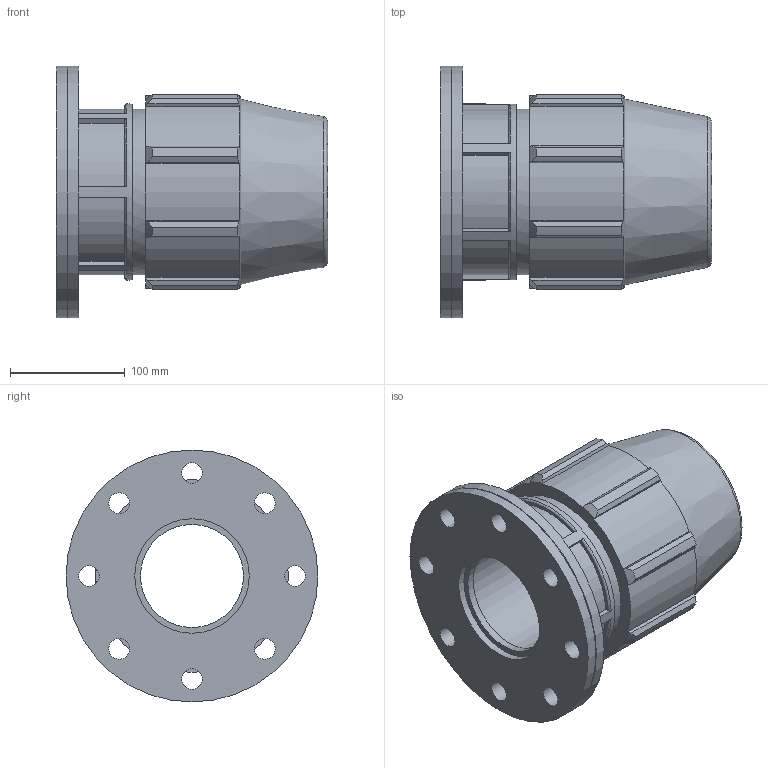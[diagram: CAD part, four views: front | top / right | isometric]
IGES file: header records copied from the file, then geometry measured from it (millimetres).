
Global section: file name: 872200110040_182200110040.ipt; native system: Autodesk Inventor 2015; preprocessor: unknown; author: KIM; date: 20170608.042638; units: millimetre
Bounding box: 237 x 220 x 220 mm (x, y, z)
Volume: 2946835.7 mm3; surface area: 290983.4 mm2
Topology: 1 solids, 1 shells, 121 faces, 342 edges, 230 vertices
Faces by surface type: plane 59, cylinder 26, revolution 23, cone 13
Full cylindrical faces by diameter (mm): 144.8 x1, 153.85 x1, 220 x2
